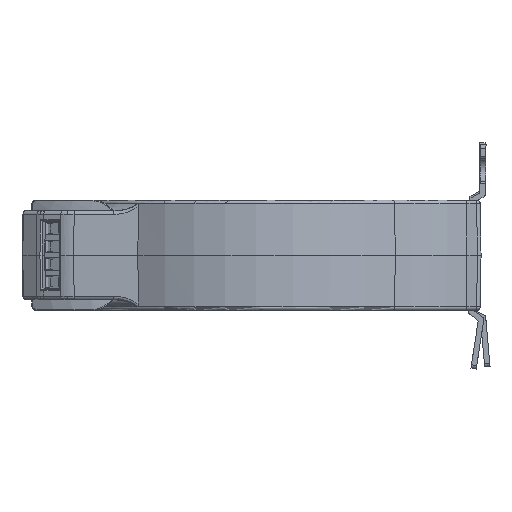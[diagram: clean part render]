
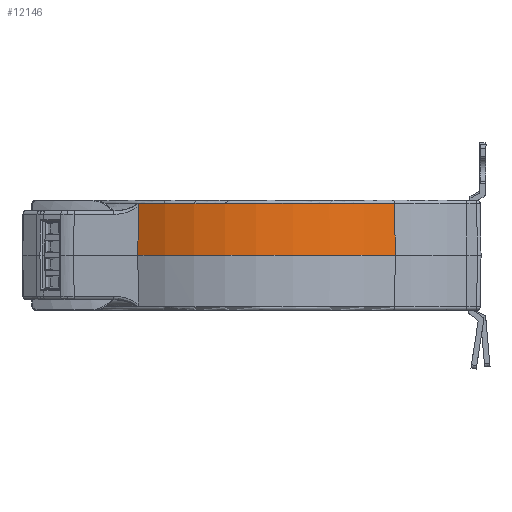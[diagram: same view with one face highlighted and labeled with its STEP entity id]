
A CAD part, left-side view. The second image highlights one B-rep face of the part: STEP entity #12146.
In plain terms, the highlighted conical face has half-angle 1 degrees and reference radius 62.16 mm.
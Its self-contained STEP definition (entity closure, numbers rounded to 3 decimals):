
#3079=CARTESIAN_POINT('',(-52.528,33.016,13.989));
#3080=CARTESIAN_POINT('',(-52.555,33.024,12.435));
#3081=CARTESIAN_POINT('',(-52.608,33.041,9.326));
#3082=CARTESIAN_POINT('',(-52.689,33.067,4.663));
#3083=CARTESIAN_POINT('',(-52.742,33.084,1.554));
#3084=CARTESIAN_POINT('',(-52.769,33.092,
0.));
#3089=CARTESIAN_POINT('',(0.,0.,
14.517));
#3090=DIRECTION('',(0.,0.,1.));
#3091=DIRECTION('',(-0.844,0.537,0.));
#3092=AXIS2_PLACEMENT_3D('',#3089,#3090,#3091);
#3097=CARTESIAN_POINT('',(0.,0.,
14.517));
#3098=DIRECTION('',(0.,0.,1.));
#3099=DIRECTION('',(-1.,0.,0.));
#3100=AXIS2_PLACEMENT_3D('',#3097,#3098,#3099);
#3465=CARTESIAN_POINT('',(-52.528,33.016,13.989));
#3466=CARTESIAN_POINT('',(-52.528,33.016,14.032));
#3467=CARTESIAN_POINT('',(-52.524,33.019,14.113));
#3468=CARTESIAN_POINT('',(-52.512,33.034,14.221));
#3469=CARTESIAN_POINT('',(-52.494,33.059,14.314));
#3470=CARTESIAN_POINT('',(-52.47,33.095,14.392));
#3471=CARTESIAN_POINT('',(-52.442,33.137,14.45));
#3472=CARTESIAN_POINT('',(-52.41,33.187,14.489));
#3473=CARTESIAN_POINT('',(-52.374,33.243,14.512));
#3474=CARTESIAN_POINT('',(-52.346,33.286,14.517));
#3475=CARTESIAN_POINT('',(-52.332,33.31,14.517));
#3480=CARTESIAN_POINT('',(-52.332,33.31,14.517));
#4718=CARTESIAN_POINT('',(0.,0.,0.));
#4719=DIRECTION('',(0.,0.,-1.));
#4720=DIRECTION('',(-0.777,-0.629,0.));
#4721=AXIS2_PLACEMENT_3D('',#4718,#4719,#4720);
#4726=CARTESIAN_POINT('',(0.,0.,0.));
#4727=DIRECTION('',(0.,0.,-1.));
#4728=DIRECTION('',(-1.,0.,0.));
#4729=AXIS2_PLACEMENT_3D('',#4726,#4727,#4728);
#9378=DIRECTION('',(-0.014,-0.011,-1.));
#9379=VECTOR('',#9378,14.52);
#9380=CARTESIAN_POINT('',(-48.227,-39.017,
14.517));
#9381=LINE('',#9380,#9379);
#10470=VERTEX_POINT('',#3480);
#10674=VERTEX_POINT('',#3079);
#10675=VERTEX_POINT('',#3084);
#10677=CARTESIAN_POINT('',(-62.033,0.,14.517));
#10678=CARTESIAN_POINT('',(-48.227,-39.017,
14.517));
#10679=VERTEX_POINT('',#10677);
#10680=VERTEX_POINT('',#10678);
#10681=CARTESIAN_POINT('',(-62.287,0.,0.));
#10682=VERTEX_POINT('',#10681);
#10683=CARTESIAN_POINT('',(-48.424,-39.176,
0.));
#10684=VERTEX_POINT('',#10683);
#12126=CARTESIAN_POINT('',(0.,0.,7.259));
#12127=DIRECTION('',(0.,0.,-1.));
#12128=DIRECTION('',(1.,0.,0.));
#12129=AXIS2_PLACEMENT_3D('',#12126,#12127,#12128);
#12130=CONICAL_SURFACE('',#12129,62.16,1.);
#12132=ORIENTED_EDGE('',*,*,#12131,.F.);
#12134=ORIENTED_EDGE('',*,*,#12133,.F.);
#12136=ORIENTED_EDGE('',*,*,#12135,.F.);
#12137=ORIENTED_EDGE('',*,*,#12114,.T.);
#12139=ORIENTED_EDGE('',*,*,#12138,.F.);
#12141=ORIENTED_EDGE('',*,*,#12140,.F.);
#12143=ORIENTED_EDGE('',*,*,#12142,.F.);
#12144=EDGE_LOOP('',(#12132,#12134,#12136,#12137,#12139,#12141,#12143));
#12145=FACE_OUTER_BOUND('',#12144,.F.);
#3085=B_SPLINE_CURVE_WITH_KNOTS('',3,(#3079,#3080,#3081,#3082,#3083,#3084),
.UNSPECIFIED.,.F.,.F.,(4,1,1,4),(0.,0.333,0.667,1.),
.UNSPECIFIED.);
#3093=CIRCLE('',#3092,62.033);
#3101=CIRCLE('',#3100,62.033);
#3476=B_SPLINE_CURVE_WITH_KNOTS('',3,(#3465,#3466,#3467,#3468,#3469,#3470,#3471,
#3472,#3473,#3474,#3475),.UNSPECIFIED.,.F.,.F.,(4,1,1,1,1,1,1,1,4),(0.,
0.125,0.25,0.375,0.5,0.625,0.75,0.875,1.),.UNSPECIFIED.);
#4722=CIRCLE('',#4721,62.287);
#4730=CIRCLE('',#4729,62.287);
#12114=EDGE_CURVE('',#10674,#10675,#3085,.T.);
#12131=EDGE_CURVE('',#10679,#10680,#3101,.T.);
#12133=EDGE_CURVE('',#10470,#10679,#3093,.T.);
#12135=EDGE_CURVE('',#10674,#10470,#3476,.T.);
#12138=EDGE_CURVE('',#10682,#10675,#4730,.T.);
#12140=EDGE_CURVE('',#10684,#10682,#4722,.T.);
#12142=EDGE_CURVE('',#10680,#10684,#9381,.T.);
#12146=ADVANCED_FACE('',(#12145),#12130,.F.);
